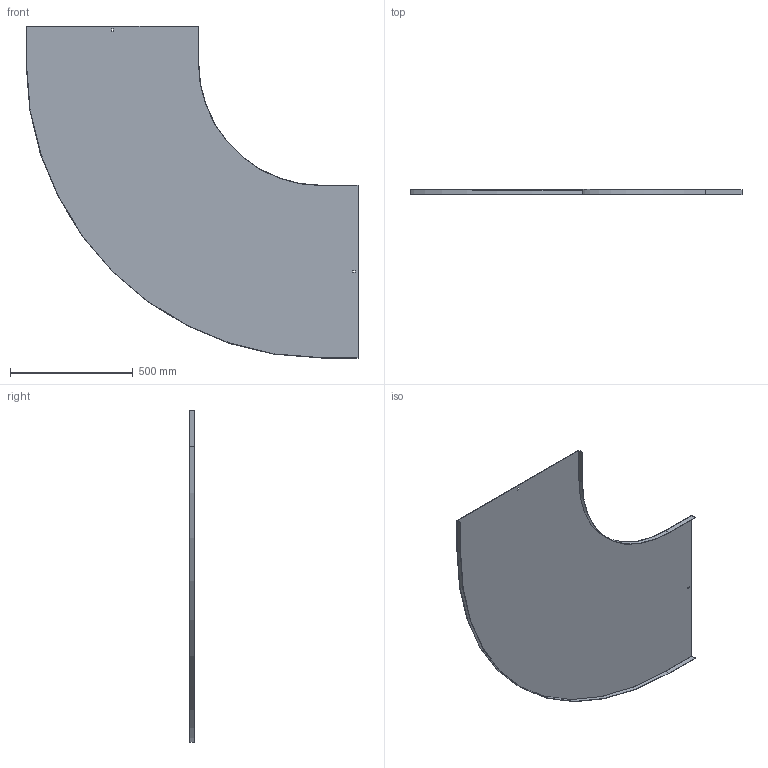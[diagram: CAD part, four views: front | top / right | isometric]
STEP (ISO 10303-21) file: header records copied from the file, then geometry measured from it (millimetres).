
FILE_DESCRIPTION (( 'STEP AP214' ), '1' );
FILE_NAME ('10N5R700.step', '2025-02-21T10:53:29', ( '' ), ( '' ), 'SwSTEP 2.0', 'SolidWorks 2023', '' );
FILE_SCHEMA (( 'AUTOMOTIVE_DESIGN' ));
Length unit declared in the file: millimetre
Products named in the file (1): 10N5R700
Bounding box: 1351.5 x 20 x 1351.5 mm (x, y, z)
Volume: 1814870.8 mm3; surface area: 2427046.3 mm2
Topology: 1 solids, 1 shells, 26 faces, 72 edges, 48 vertices
Faces by surface type: plane 22, cylinder 4
Entity records: 855 total; most frequent: CARTESIAN_POINT 147, ORIENTED_EDGE 144, DIRECTION 134, EDGE_CURVE 72, LINE 64, VECTOR 64, VERTEX_POINT 48, AXIS2_PLACEMENT_3D 35
